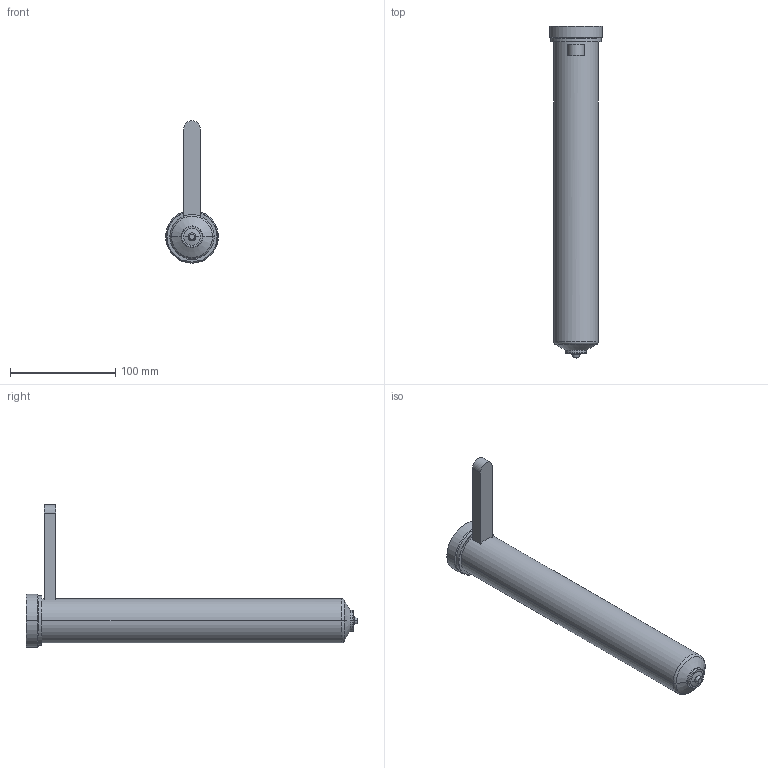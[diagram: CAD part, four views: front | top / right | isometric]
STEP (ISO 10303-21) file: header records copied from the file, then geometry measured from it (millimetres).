
FILE_DESCRIPTION((''),'2;1');
FILE_NAME('EO16_VG-BL_STD_300_COT','2024-02-19T13:20:10',('sundharh'),(''),'CREO PARAMETRIC BY PTC INC, 2023154','CREO PARAMETRIC BY PTC INC, 2023154','');
FILE_SCHEMA(('CONFIG_CONTROL_DESIGN'));
Length unit declared in the file: millimetre
Products named in the file (1): EO16_VG-BL_STD_300_COT
Bounding box: 50 x 315 x 135 mm (x, y, z)
Volume: 446068.8 mm3; surface area: 48899.6 mm2
Topology: 1 solids, 1 shells, 38 faces, 81 edges, 48 vertices
Faces by surface type: cylinder 11, plane 10, torus 9, cone 6, sphere 2
Entity records: 1151 total; most frequent: CARTESIAN_POINT 263, DIRECTION 199, ORIENTED_EDGE 162, AXIS2_PLACEMENT_3D 86, EDGE_CURVE 81, VERTEX_POINT 48, CIRCLE 48, EDGE_LOOP 41
